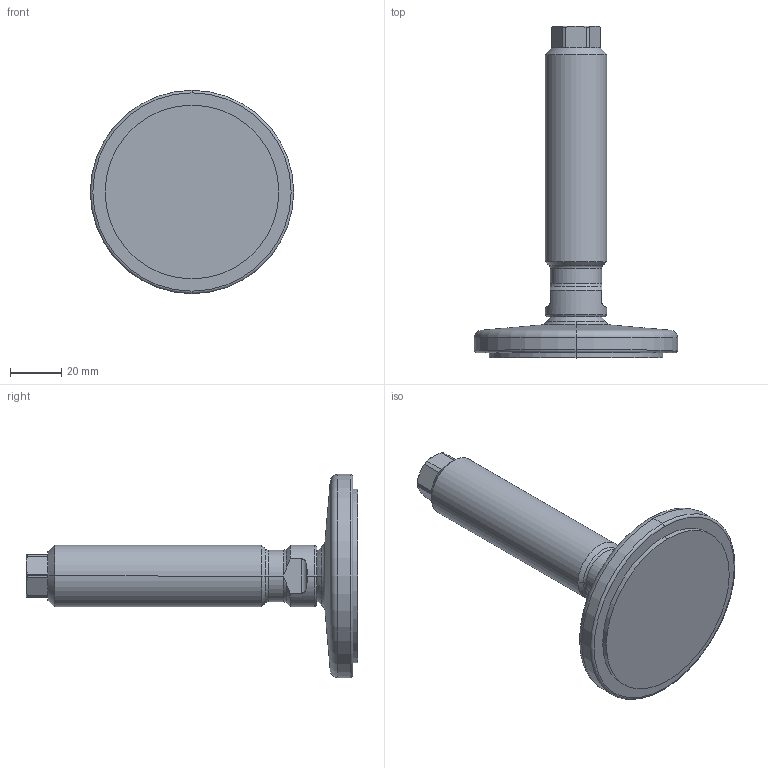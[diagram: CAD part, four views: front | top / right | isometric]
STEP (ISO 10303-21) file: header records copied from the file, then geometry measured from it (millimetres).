
FILE_DESCRIPTION (( 'STEP AP214' ), '1' );
FILE_NAME ('21-80-M24-100-D1-V.step', '2020-10-02T17:36:22', ( '' ), ( '' ), 'SwSTEP 2.0', 'SolidWorks 2019', '' );
FILE_SCHEMA (( 'AUTOMOTIVE_DESIGN' ));
Length unit declared in the file: millimetre
Products named in the file (3): WB21_Fußteller 21^WB21_V_D1-080-R14-B9 (M24); WB21_Spindel_V^WB21_V_M24-100; 21-80-M24-100-D1-V
Assembly tree (2 placements, depth 2):
  21-80-M24-100-D1-V
    WB21_Fußteller 21^WB21_V_D1-080-R14-B9 (M24)
    WB21_Spindel_V^WB21_V_M24-100
Bounding box: 79 x 128.9 x 79 mm (x, y, z)
Volume: 102642.2 mm3; surface area: 21418.3 mm2
Topology: 2 solids, 2 shells, 76 faces, 171 edges, 101 vertices
Faces by surface type: cylinder 25, plane 20, cone 17, torus 10, sphere 4
Entity records: 2399 total; most frequent: CARTESIAN_POINT 517, DIRECTION 390, ORIENTED_EDGE 342, EDGE_CURVE 171, AXIS2_PLACEMENT_3D 166, VERTEX_POINT 101, CIRCLE 85, EDGE_LOOP 78
